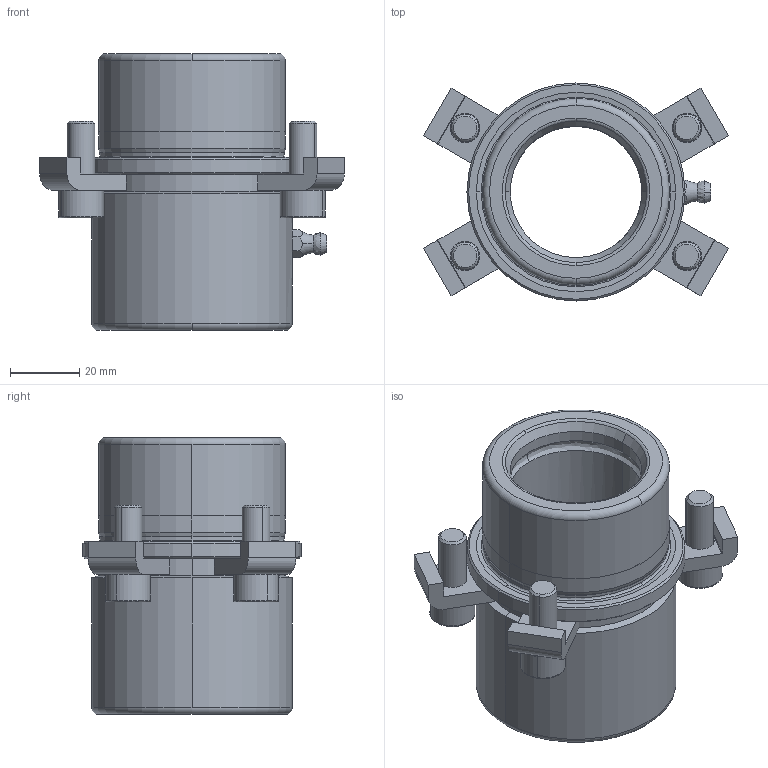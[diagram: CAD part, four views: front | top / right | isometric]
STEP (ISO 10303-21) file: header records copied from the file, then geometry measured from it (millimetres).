
FILE_DESCRIPTION((''),'2;1');
FILE_NAME('B10_038_050.stp','2008-11-06T08:53:02',(''),(''),'Mechanical Desktop 2009','Mechanical Desktop 2009',', , ');
FILE_SCHEMA(('CONFIG_CONTROL_DESIGN'));
Length unit declared in the file: millimetre
Products named in the file (2): Product; blmdl1
Assembly tree (1 placements, depth 2):
  Product
    blmdl1
Bounding box: 88.14 x 63 x 80 mm (x, y, z)
Volume: 122181 mm3; surface area: 37444.3 mm2
Topology: 10 solids, 10 shells, 210 faces, 529 edges, 348 vertices
Faces by surface type: plane 90, cylinder 60, cone 24, bspline 18, torus 18
Entity records: 7642 total; most frequent: CARTESIAN_POINT 2348, DIRECTION 1151, ORIENTED_EDGE 1050, EDGE_CURVE 525, AXIS2_PLACEMENT_3D 449, VERTEX_POINT 346, CIRCLE 255, VECTOR 253
